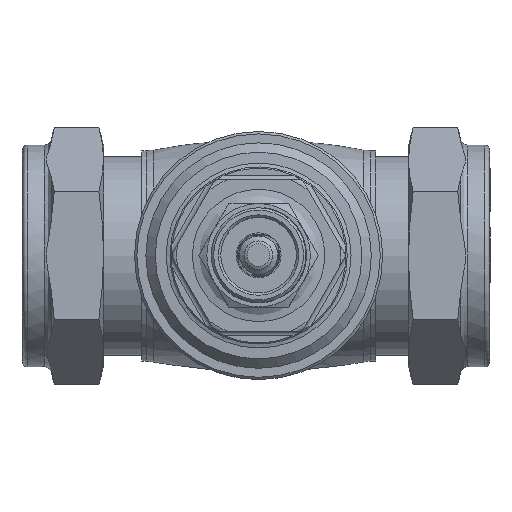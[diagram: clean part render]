
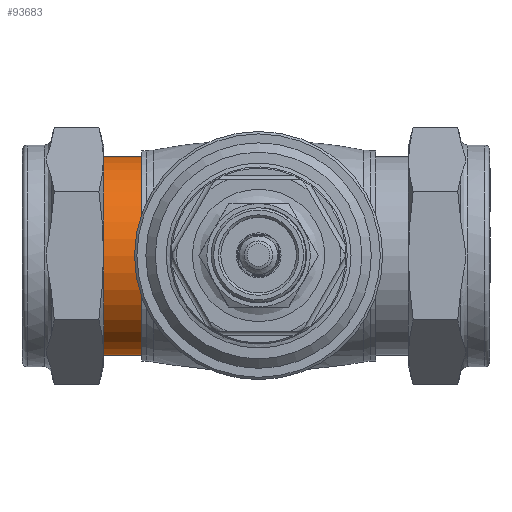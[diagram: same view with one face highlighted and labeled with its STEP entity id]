
A CAD part, top view. The second image highlights one B-rep face of the part: STEP entity #93683.
In plain terms, the highlighted cylindrical face has radius 21 mm (diameter 42 mm), a full revolution.
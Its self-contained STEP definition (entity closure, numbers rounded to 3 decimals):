
#12122=CARTESIAN_POINT('',(6.447,21.,0.0));
#12123=VERTEX_POINT('',#12122);
#12124=CARTESIAN_POINT('',(6.447,0.,0.0));
#12125=DIRECTION('',(1.0,0.0,0.0));
#12126=DIRECTION('',(0.0,-1.0,0.0));
#12127=AXIS2_PLACEMENT_3D('',#12124,#12125,#12126);
#12128=CIRCLE('',#12127,21.);
#12129=EDGE_CURVE('',#12123,#12123,#12128,.T.);
#93660=CARTESIAN_POINT('',(14.5,-21.,0.0));
#93661=VERTEX_POINT('',#93660);
#93662=CARTESIAN_POINT('',(14.5,0.,0.0));
#93663=DIRECTION('',(-1.0,0.0,0.0));
#93664=DIRECTION('',(0.0,-1.0,0.0));
#93665=AXIS2_PLACEMENT_3D('',#93662,#93663,#93664);
#93666=CIRCLE('',#93665,21.);
#93667=EDGE_CURVE('',#93661,#93661,#93666,.T.);
#93672=CARTESIAN_POINT('',(7.5,0.,0.0));
#93673=DIRECTION('',(-1.0,0.,0.0));
#93674=DIRECTION('',(0.0,-1.0,0.0));
#93675=AXIS2_PLACEMENT_3D('',#93672,#93673,#93674);
#93676=CYLINDRICAL_SURFACE('',#93675,21.);
#93677=ORIENTED_EDGE('',*,*,#12129,.T.);
#93678=EDGE_LOOP('',(#93677));
#93679=FACE_OUTER_BOUND('',#93678,.T.);
#93680=ORIENTED_EDGE('',*,*,#93667,.T.);
#93681=EDGE_LOOP('',(#93680));
#93682=FACE_BOUND('',#93681,.T.);
#93683=ADVANCED_FACE('',(#93679,#93682),#93676,.T.);
